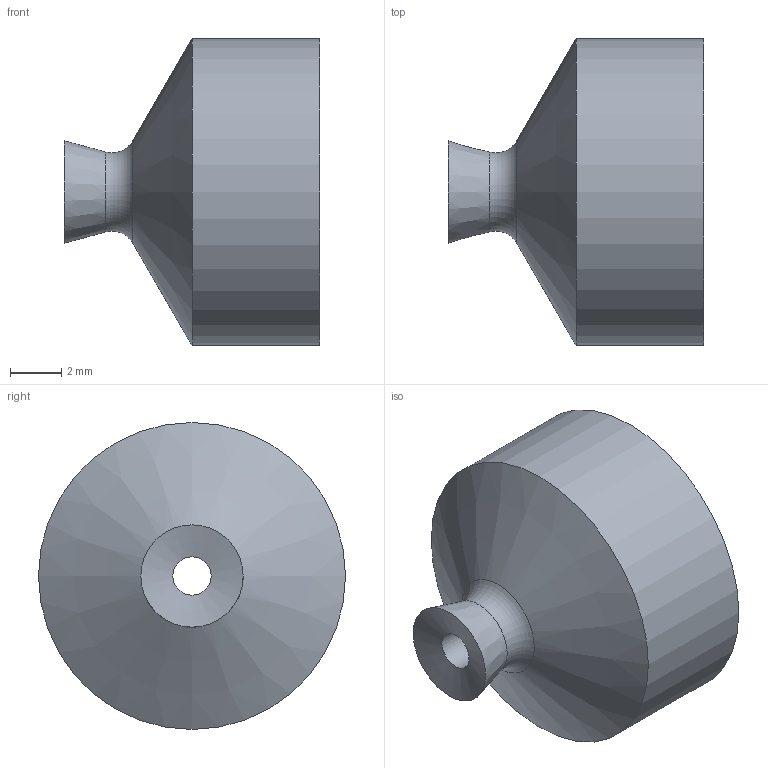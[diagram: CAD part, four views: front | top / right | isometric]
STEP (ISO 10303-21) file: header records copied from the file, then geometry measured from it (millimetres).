
FILE_DESCRIPTION (( 'STEP AP203' ), '1' );
FILE_NAME ('VAPN-4C.STEP', '2019-08-27T02:57:15', ( '' ), ( '' ), 'SwSTEP 2.0', 'SolidWorks 2018', '' );
FILE_SCHEMA (( 'CONFIG_CONTROL_DESIGN' ));
Length unit declared in the file: millimetre
Products named in the file (2): VAPN-4C
Bounding box: 10 x 12 x 12 mm (x, y, z)
Volume: 520.6 mm3; surface area: 650.5 mm2
Topology: 1 solids, 1 shells, 11 faces, 22 edges, 14 vertices
Faces by surface type: cylinder 4, plane 3, cone 3, torus 1
Full cylindrical faces by diameter (mm): 1.5 x1, 6 x1, 9 x1, 12 x1
Entity records: 481 total; most frequent: CARTESIAN_POINT 128, DIRECTION 48, AXIS2_PLACEMENT_3D 24, ORIENTED_EDGE 24, EDGE_LOOP 22, FACE_OUTER_BOUND 16, PERSON_AND_ORGANIZATION 16, EDGE_CURVE 12
